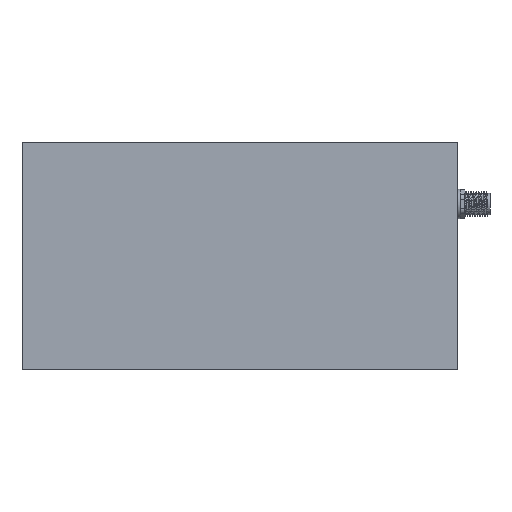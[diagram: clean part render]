
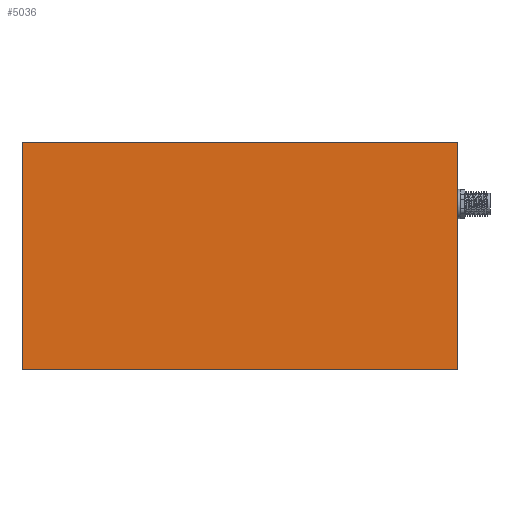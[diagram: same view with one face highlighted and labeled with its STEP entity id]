
A CAD part, top view. The second image highlights one B-rep face of the part: STEP entity #5036.
In plain terms, the highlighted planar face has unit normal (0, 0, 1).
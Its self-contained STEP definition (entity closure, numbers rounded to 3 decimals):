
#1242 = VERTEX_POINT ( 'NONE', #5424 ) ;
#1440 = VECTOR ( 'NONE', #6624, 1000. ) ;
#1510 = VERTEX_POINT ( 'NONE', #14950 ) ;
#1737 = CARTESIAN_POINT ( 'NONE',  ( -5., -5., 21.06 ) ) ;
#1859 = DIRECTION ( 'NONE',  ( -1., 0., 0. ) ) ;
#2010 = FACE_OUTER_BOUND ( 'NONE', #12567, .T. ) ;
#2574 = CARTESIAN_POINT ( 'NONE',  ( 209., 107., 21.06 ) ) ;
#2692 = VERTEX_POINT ( 'NONE', #7189 ) ;
#2996 = EDGE_CURVE ( 'NONE', #2692, #3296, #10189, .T. ) ;
#3296 = VERTEX_POINT ( 'NONE', #3739 ) ;
#3739 = CARTESIAN_POINT ( 'NONE',  ( -5., 107., 21.06 ) ) ;
#4070 = CARTESIAN_POINT ( 'NONE',  ( -5., 107., 21.06 ) ) ;
#4185 = DIRECTION ( 'NONE',  ( 0., 0., -1. ) ) ;
#5036 = ADVANCED_FACE ( 'NONE', ( #2010 ), #5345, .F. ) ;
#5345 = PLANE ( 'NONE',  #5706 ) ;
#5379 = VECTOR ( 'NONE', #6466, 1000. ) ;
#5424 = CARTESIAN_POINT ( 'NONE',  ( -5., -5., 21.06 ) ) ;
#5706 = AXIS2_PLACEMENT_3D ( 'NONE', #10081, #4185, #1859 ) ;
#6466 = DIRECTION ( 'NONE',  ( 0., -1., 0. ) ) ;
#6624 = DIRECTION ( 'NONE',  ( -1., 0., 0. ) ) ;
#7189 = CARTESIAN_POINT ( 'NONE',  ( 209., 107., 21.06 ) ) ;
#7543 = LINE ( 'NONE', #2574, #8566 ) ;
#8234 = DIRECTION ( 'NONE',  ( 1., 0., 0. ) ) ;
#8566 = VECTOR ( 'NONE', #10944, 1000. ) ;
#8616 = ORIENTED_EDGE ( 'NONE', *, *, #8880, .T. ) ;
#8835 = VECTOR ( 'NONE', #8234, 1000. ) ;
#8880 = EDGE_CURVE ( 'NONE', #1242, #1510, #9395, .T. ) ;
#9395 = LINE ( 'NONE', #11652, #8835 ) ;
#9546 = ORIENTED_EDGE ( 'NONE', *, *, #2996, .T. ) ;
#9867 = ORIENTED_EDGE ( 'NONE', *, *, #11618, .T. ) ;
#10081 = CARTESIAN_POINT ( 'NONE',  ( 0., 0., 21.06 ) ) ;
#10189 = LINE ( 'NONE', #4070, #1440 ) ;
#10944 = DIRECTION ( 'NONE',  ( 0., 1., 0. ) ) ;
#11266 = LINE ( 'NONE', #1737, #5379 ) ;
#11618 = EDGE_CURVE ( 'NONE', #3296, #1242, #11266, .T. ) ;
#11652 = CARTESIAN_POINT ( 'NONE',  ( 209., -5., 21.06 ) ) ;
#11783 = ORIENTED_EDGE ( 'NONE', *, *, #12681, .T. ) ;
#12567 = EDGE_LOOP ( 'NONE', ( #8616, #11783, #9546, #9867 ) ) ;
#12681 = EDGE_CURVE ( 'NONE', #1510, #2692, #7543, .T. ) ;
#14950 = CARTESIAN_POINT ( 'NONE',  ( 209., -5., 21.06 ) ) ;
